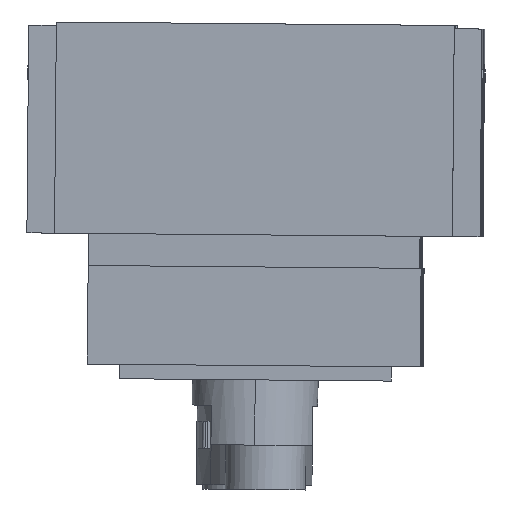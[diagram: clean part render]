
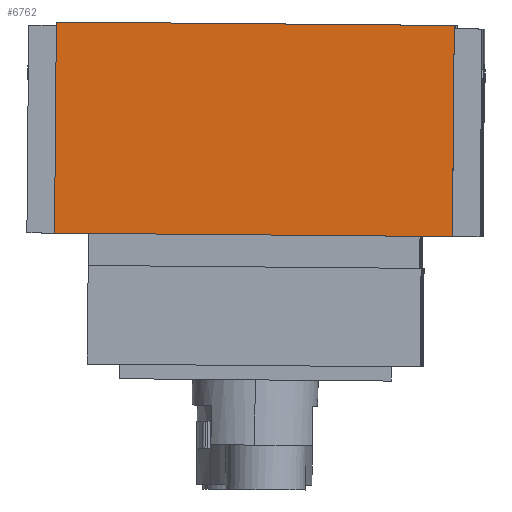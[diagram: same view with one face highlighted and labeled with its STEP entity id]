
A CAD part, left-side view. The second image highlights one B-rep face of the part: STEP entity #6762.
In plain terms, the highlighted planar face has unit normal (-1, 0.003, 0) as drawn and (1, 0, 0) by its records, which use the part's own axes.
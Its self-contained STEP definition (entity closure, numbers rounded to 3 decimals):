
#54=DIRECTION('',(0.,1.,0.));
#55=VECTOR('',#54,180.);
#56=CARTESIAN_POINT('',(92.4,-90.,-47.75));
#57=LINE('',#56,#55);
#1085=DIRECTION('',(0.,0.,1.));
#1086=VECTOR('',#1085,95.5);
#1087=CARTESIAN_POINT('',(92.4,90.,-47.75));
#1088=LINE('',#1087,#1086);
#2178=DIRECTION('',(0.,0.,1.));
#2179=VECTOR('',#2178,95.5);
#2180=CARTESIAN_POINT('',(92.4,-90.,-47.75));
#2181=LINE('',#2180,#2179);
#2182=DIRECTION('',(0.,1.,0.));
#2183=VECTOR('',#2182,180.);
#2184=CARTESIAN_POINT('',(92.4,-90.,47.75));
#2185=LINE('',#2184,#2183);
#3099=CARTESIAN_POINT('',(92.4,-90.,-47.75));
#3100=VERTEX_POINT('',#3099);
#3101=CARTESIAN_POINT('',(92.4,90.,-47.75));
#3102=VERTEX_POINT('',#3101);
#3301=CARTESIAN_POINT('',(92.4,-90.,47.75));
#3302=VERTEX_POINT('',#3301);
#3541=CARTESIAN_POINT('',(92.4,90.,47.75));
#3542=VERTEX_POINT('',#3541);
#6751=CARTESIAN_POINT('',(92.4,-90.,-47.75));
#6752=DIRECTION('',(1.,0.,0.));
#6753=DIRECTION('',(0.,1.,0.));
#6754=AXIS2_PLACEMENT_3D('',#6751,#6752,#6753);
#6755=PLANE('',#6754);
#6756=ORIENTED_EDGE('',*,*,#4108,.F.);
#6757=ORIENTED_EDGE('',*,*,#4593,.T.);
#6758=ORIENTED_EDGE('',*,*,#5344,.T.);
#6759=ORIENTED_EDGE('',*,*,#5294,.F.);
#6760=EDGE_LOOP('',(#6756,#6757,#6758,#6759));
#6761=FACE_OUTER_BOUND('',#6760,.F.);
#6762=ADVANCED_FACE('',(#6761),#6755,.T.);
#4108=EDGE_CURVE('',#3100,#3102,#57,.T.);
#4593=EDGE_CURVE('',#3100,#3302,#2181,.T.);
#5294=EDGE_CURVE('',#3102,#3542,#1088,.T.);
#5344=EDGE_CURVE('',#3302,#3542,#2185,.T.);
